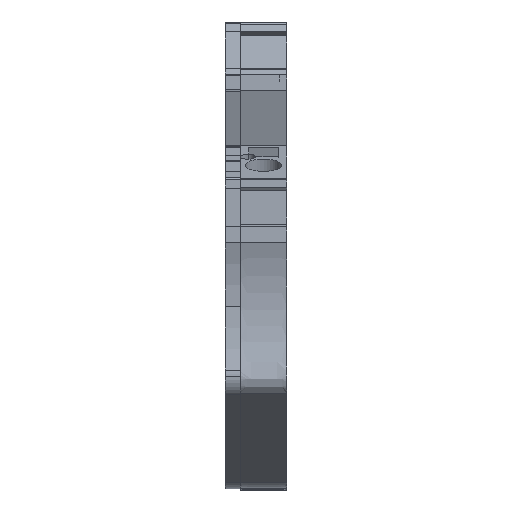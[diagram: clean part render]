
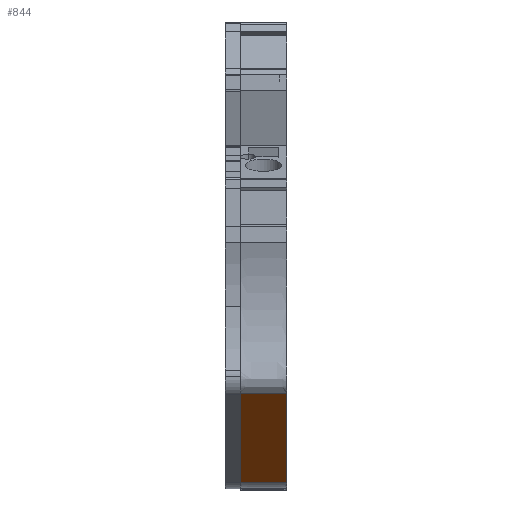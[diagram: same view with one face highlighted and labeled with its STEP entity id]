
A CAD part, left-side view. The second image highlights one B-rep face of the part: STEP entity #844.
In plain terms, the highlighted planar face has unit normal (-0.567, 0, -0.824).
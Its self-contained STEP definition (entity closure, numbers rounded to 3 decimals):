
#844=ADVANCED_FACE('',(#35361),#35363,.T.);
#35361=FACE_BOUND('',#35362,.T.);
#35362=EDGE_LOOP('',(#62279,#62280,#62281,#62282));
#35363=PLANE('',#35364);
#35364=AXIS2_PLACEMENT_3D('',#35365,#35366,#35367);
#35365=CARTESIAN_POINT('',(-35.247,-3.,-22.78));
#35366=DIRECTION('',(-0.567,0.,-0.824));
#35367=DIRECTION('',(-0.824,0.,0.567));
#62279=ORIENTED_EDGE('',*,*,#91494,.F.);
#62280=ORIENTED_EDGE('',*,*,#91495,.F.);
#62281=ORIENTED_EDGE('',*,*,#91496,.T.);
#62282=ORIENTED_EDGE('',*,*,#91492,.T.);
#91492=EDGE_CURVE('',#102789,#102787,#102790,.T.);
#91494=EDGE_CURVE('',#102792,#102787,#102793,.F.);
#91495=EDGE_CURVE('',#102794,#102792,#102795,.T.);
#91496=EDGE_CURVE('',#102794,#102789,#102796,.T.);
#102787=VERTEX_POINT('',#124133);
#102789=VERTEX_POINT('',#124180);
#102790=LINE('',#124181,#124182);
#102792=VERTEX_POINT('',#124314);
#102793=LINE('',#124315,#124316);
#102794=VERTEX_POINT('',#124318);
#102795=LINE('',#124319,#124320);
#102796=LINE('',#124322,#124323);
#124133=CARTESIAN_POINT('',(-52.493,3.2,-10.902));
#124180=CARTESIAN_POINT('',(-52.493,-3.,-10.902));
#124181=CARTESIAN_POINT('',(-52.493,-3.,-10.902));
#124182=VECTOR('',#124183,1.);
#124183=DIRECTION('',(0.,1.,0.));
#124314=CARTESIAN_POINT('',(-35.247,3.2,-22.78));
#124315=CARTESIAN_POINT('',(-52.493,3.2,-10.902));
#124316=VECTOR('',#124317,1.);
#124317=DIRECTION('',(0.824,0.,-0.567));
#124318=CARTESIAN_POINT('',(-35.247,-3.,-22.78));
#124319=CARTESIAN_POINT('',(-35.247,-3.,-22.78));
#124320=VECTOR('',#124321,1.);
#124321=DIRECTION('',(0.,1.,0.));
#124322=CARTESIAN_POINT('',(-35.247,-3.,-22.78));
#124323=VECTOR('',#124324,1.);
#124324=DIRECTION('',(-0.824,0.,0.567));
